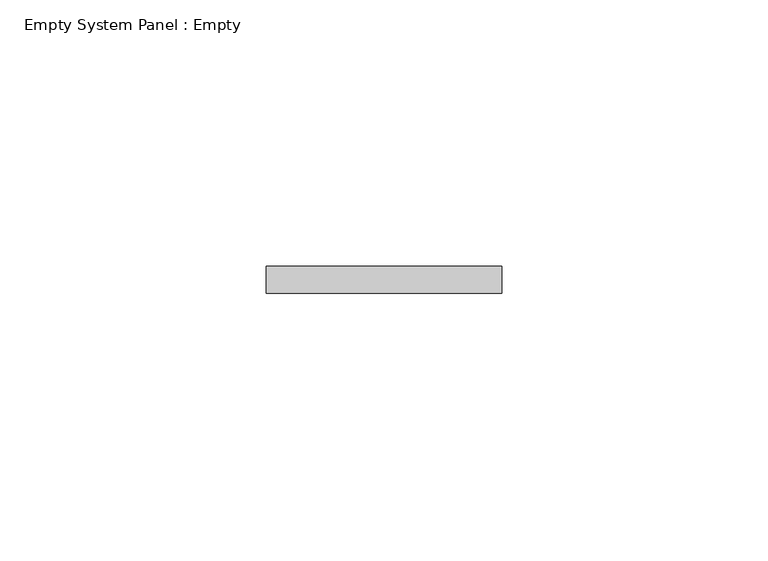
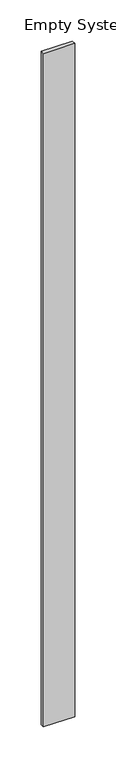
"""IFC4 building model written with IfcOpenShell, lengths in millimetres: plate geometry, Empty System Panel : Empty."""

from ifc_helpers import new_model, si_unit, origin, origin_with_axes, place, context, project, spatial, polyline, outline, extrude, source, transform, mapped, element, save


def empty_system_panel_empty_2f7d46bf(model_context):
    return source(origin(), model_context, "Body", "SweptSolid", [
        extrude(outline(polyline([(22.0499165, -102.5), (-22.0499165, -102.5), (-22.0499165, -97.5), (22.0499165, -97.5), (22.0499165, -102.5)])), origin_with_axes(), (0.0, 0.0, 1.0), 1000.0),
    ])


if __name__ == "__main__":
    model = new_model("IFC4")
    model_context = context("Model", 3, world=origin())
    ifc_project = project(units=[si_unit("LENGTHUNIT", "METRE", prefix="MILLI")], contexts=[model_context])
    site = spatial("IfcSite", under=ifc_project)
    building = spatial("IfcBuilding", under=site)
    placement = place(None, origin())
    empty_system_panel_empty_shape = empty_system_panel_empty_2f7d46bf(model_context)
    element("IfcPlate", 1, ObjectType="Empty System Panel : Empty", at=placement, inside=building, context=model_context, shape_type="MappedRepresentation", body=[
        mapped(empty_system_panel_empty_shape, transform((0.0, 0.0, 0.0), x_axis=(1.0, 0.0, 0.0), y_axis=(0.0, 1.0, 0.0), z_axis=(0.0, 0.0, 1.0))),
    ])
    save(model, "model.ifc")
